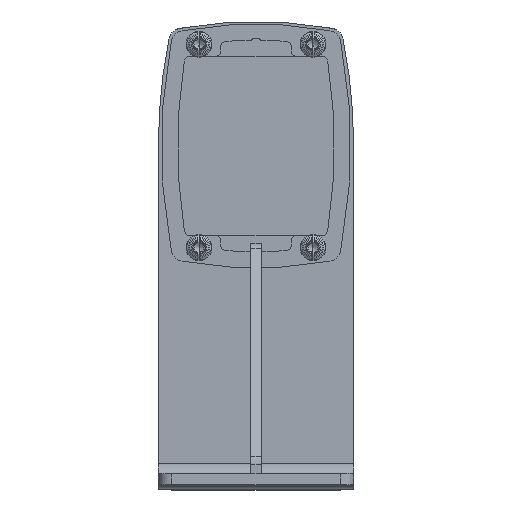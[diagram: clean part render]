
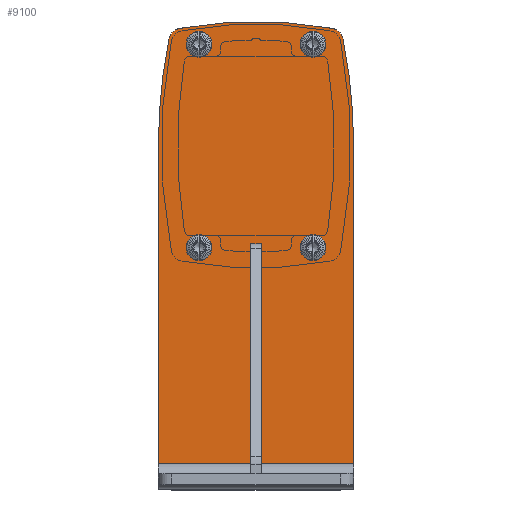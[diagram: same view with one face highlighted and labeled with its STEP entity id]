
A CAD part, top view. The second image highlights one B-rep face of the part: STEP entity #9100.
In plain terms, the highlighted planar face has unit normal (0, 0, 1) as drawn and (0, -1, 0) by its records, which use the part's own axes.
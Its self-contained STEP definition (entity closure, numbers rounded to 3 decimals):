
#7985=CARTESIAN_POINT('',(0.,-4.,165.));
#7986=DIRECTION('',(0.,-1.,0.));
#7987=DIRECTION('',(-0.196,0.,-0.981));
#7988=AXIS2_PLACEMENT_3D('',#7985,#7986,#7987);
#7993=CARTESIAN_POINT('',(-38.445,-4.,-27.192));
#7994=DIRECTION('',(0.,-1.,0.));
#7995=DIRECTION('',(-0.983,0.,-0.186));
#7996=AXIS2_PLACEMENT_3D('',#7993,#7994,#7995);
#8001=CARTESIAN_POINT('',(105.,-4.,0.));
#8002=DIRECTION('',(0.,-1.,0.));
#8003=DIRECTION('',(-0.983,0.,0.186));
#8004=AXIS2_PLACEMENT_3D('',#8001,#8002,#8003);
#8009=CARTESIAN_POINT('',(-38.445,-4.,27.192));
#8010=DIRECTION('',(0.,-1.,0.));
#8011=DIRECTION('',(-0.196,0.,0.981));
#8012=AXIS2_PLACEMENT_3D('',#8009,#8010,#8011);
#8017=CARTESIAN_POINT('',(0.,-4.,-165.));
#8018=DIRECTION('',(0.,-1.,0.));
#8019=DIRECTION('',(0.,0.,1.));
#8020=AXIS2_PLACEMENT_3D('',#8017,#8018,#8019);
#8025=DIRECTION('',(-1.,0.,0.));
#8026=VECTOR('',#8025,117.);
#8027=CARTESIAN_POINT('',(117.,-4.,36.));
#8028=LINE('',#8027,#8026);
#8032=DIRECTION('',(1.,0.,0.));
#8033=VECTOR('',#8032,117.);
#8034=CARTESIAN_POINT('',(0.,-4.,-36.));
#8035=LINE('',#8034,#8033);
#8039=CARTESIAN_POINT('',(37.5,-4.,21.));
#8040=DIRECTION('',(0.,1.,0.));
#8041=DIRECTION('',(-1.,0.,0.));
#8042=AXIS2_PLACEMENT_3D('',#8039,#8040,#8041);
#8047=CARTESIAN_POINT('',(37.5,-4.,21.));
#8048=DIRECTION('',(0.,1.,0.));
#8049=DIRECTION('',(1.,0.,0.));
#8050=AXIS2_PLACEMENT_3D('',#8047,#8048,#8049);
#8055=CARTESIAN_POINT('',(-37.5,-4.,21.));
#8056=DIRECTION('',(0.,1.,0.));
#8057=DIRECTION('',(-1.,0.,0.));
#8058=AXIS2_PLACEMENT_3D('',#8055,#8056,#8057);
#8063=CARTESIAN_POINT('',(-37.5,-4.,21.));
#8064=DIRECTION('',(0.,1.,0.));
#8065=DIRECTION('',(1.,0.,0.));
#8066=AXIS2_PLACEMENT_3D('',#8063,#8064,#8065);
#8071=CARTESIAN_POINT('',(-37.5,-4.,-21.));
#8072=DIRECTION('',(0.,1.,0.));
#8073=DIRECTION('',(-1.,0.,0.));
#8074=AXIS2_PLACEMENT_3D('',#8071,#8072,#8073);
#8079=CARTESIAN_POINT('',(-37.5,-4.,-21.));
#8080=DIRECTION('',(0.,1.,0.));
#8081=DIRECTION('',(1.,0.,0.));
#8082=AXIS2_PLACEMENT_3D('',#8079,#8080,#8081);
#8087=CARTESIAN_POINT('',(37.5,-4.,-21.));
#8088=DIRECTION('',(0.,1.,0.));
#8089=DIRECTION('',(-1.,0.,0.));
#8090=AXIS2_PLACEMENT_3D('',#8087,#8088,#8089);
#8095=CARTESIAN_POINT('',(37.5,-4.,-21.));
#8096=DIRECTION('',(0.,1.,0.));
#8097=DIRECTION('',(1.,0.,0.));
#8098=AXIS2_PLACEMENT_3D('',#8095,#8096,#8097);
#8118=DIRECTION('',(0.,0.,1.));
#8119=VECTOR('',#8118,72.);
#8120=CARTESIAN_POINT('',(117.,-4.,-36.));
#8121=LINE('',#8120,#8119);
#8332=CARTESIAN_POINT('',(-39.426,-4.,-32.095));
#8333=CARTESIAN_POINT('',(0.,-4.,-36.));
#8334=VERTEX_POINT('',#8332);
#8335=VERTEX_POINT('',#8333);
#8336=CARTESIAN_POINT('',(-43.358,-4.,-28.124));
#8337=VERTEX_POINT('',#8336);
#8338=CARTESIAN_POINT('',(-43.358,-4.,28.124));
#8339=VERTEX_POINT('',#8338);
#8340=CARTESIAN_POINT('',(-39.426,-4.,32.095));
#8341=VERTEX_POINT('',#8340);
#8342=CARTESIAN_POINT('',(0.,-4.,36.));
#8343=VERTEX_POINT('',#8342);
#8344=CARTESIAN_POINT('',(117.,-4.,36.));
#8345=VERTEX_POINT('',#8344);
#8346=CARTESIAN_POINT('',(117.,-4.,-36.));
#8347=VERTEX_POINT('',#8346);
#8364=CARTESIAN_POINT('',(32.75,-4.,21.));
#8365=CARTESIAN_POINT('',(42.25,-4.,21.));
#8366=VERTEX_POINT('',#8364);
#8367=VERTEX_POINT('',#8365);
#8376=CARTESIAN_POINT('',(-42.25,-4.,21.));
#8377=CARTESIAN_POINT('',(-32.75,-4.,21.));
#8378=VERTEX_POINT('',#8376);
#8379=VERTEX_POINT('',#8377);
#8388=CARTESIAN_POINT('',(-42.25,-4.,-21.));
#8389=CARTESIAN_POINT('',(-32.75,-4.,-21.));
#8390=VERTEX_POINT('',#8388);
#8391=VERTEX_POINT('',#8389);
#8400=CARTESIAN_POINT('',(32.75,-4.,-21.));
#8401=CARTESIAN_POINT('',(42.25,-4.,-21.));
#8402=VERTEX_POINT('',#8400);
#8403=VERTEX_POINT('',#8401);
#9060=CARTESIAN_POINT('',(0.,-4.,0.));
#9061=DIRECTION('',(0.,1.,0.));
#9062=DIRECTION('',(1.,0.,0.));
#9063=AXIS2_PLACEMENT_3D('',#9060,#9061,#9062);
#9064=PLANE('',#9063);
#9065=ORIENTED_EDGE('',*,*,#8515,.F.);
#9066=ORIENTED_EDGE('',*,*,#8537,.F.);
#9067=ORIENTED_EDGE('',*,*,#8558,.F.);
#9068=ORIENTED_EDGE('',*,*,#8579,.F.);
#9069=ORIENTED_EDGE('',*,*,#8600,.F.);
#9070=ORIENTED_EDGE('',*,*,#8621,.F.);
#9072=ORIENTED_EDGE('',*,*,#9071,.F.);
#9073=ORIENTED_EDGE('',*,*,#9047,.F.);
#9074=EDGE_LOOP('',(#9065,#9066,#9067,#9068,#9069,#9070,#9072,#9073));
#9075=FACE_OUTER_BOUND('',#9074,.F.);
#9077=ORIENTED_EDGE('',*,*,#9076,.F.);
#9079=ORIENTED_EDGE('',*,*,#9078,.F.);
#9080=EDGE_LOOP('',(#9077,#9079));
#9081=FACE_BOUND('',#9080,.F.);
#9083=ORIENTED_EDGE('',*,*,#9082,.F.);
#9085=ORIENTED_EDGE('',*,*,#9084,.F.);
#9086=EDGE_LOOP('',(#9083,#9085));
#9087=FACE_BOUND('',#9086,.F.);
#9089=ORIENTED_EDGE('',*,*,#9088,.F.);
#9091=ORIENTED_EDGE('',*,*,#9090,.F.);
#9092=EDGE_LOOP('',(#9089,#9091));
#9093=FACE_BOUND('',#9092,.F.);
#9095=ORIENTED_EDGE('',*,*,#9094,.F.);
#9097=ORIENTED_EDGE('',*,*,#9096,.F.);
#9098=EDGE_LOOP('',(#9095,#9097));
#9099=FACE_BOUND('',#9098,.F.);
#7989=CIRCLE('',#7988,201.);
#7997=CIRCLE('',#7996,5.);
#8005=CIRCLE('',#8004,151.);
#8013=CIRCLE('',#8012,5.);
#8021=CIRCLE('',#8020,201.);
#8043=CIRCLE('',#8042,4.75);
#8051=CIRCLE('',#8050,4.75);
#8059=CIRCLE('',#8058,4.75);
#8067=CIRCLE('',#8066,4.75);
#8075=CIRCLE('',#8074,4.75);
#8083=CIRCLE('',#8082,4.75);
#8091=CIRCLE('',#8090,4.75);
#8099=CIRCLE('',#8098,4.75);
#8515=EDGE_CURVE('',#8334,#8335,#7989,.T.);
#8537=EDGE_CURVE('',#8337,#8334,#7997,.T.);
#8558=EDGE_CURVE('',#8339,#8337,#8005,.T.);
#8579=EDGE_CURVE('',#8341,#8339,#8013,.T.);
#8600=EDGE_CURVE('',#8343,#8341,#8021,.T.);
#8621=EDGE_CURVE('',#8345,#8343,#8028,.T.);
#9047=EDGE_CURVE('',#8335,#8347,#8035,.T.);
#9071=EDGE_CURVE('',#8347,#8345,#8121,.T.);
#9076=EDGE_CURVE('',#8366,#8367,#8043,.T.);
#9078=EDGE_CURVE('',#8367,#8366,#8051,.T.);
#9082=EDGE_CURVE('',#8378,#8379,#8059,.T.);
#9084=EDGE_CURVE('',#8379,#8378,#8067,.T.);
#9088=EDGE_CURVE('',#8390,#8391,#8075,.T.);
#9090=EDGE_CURVE('',#8391,#8390,#8083,.T.);
#9094=EDGE_CURVE('',#8402,#8403,#8091,.T.);
#9096=EDGE_CURVE('',#8403,#8402,#8099,.T.);
#9100=ADVANCED_FACE('',(#9075,#9081,#9087,#9093,#9099),#9064,.F.);
